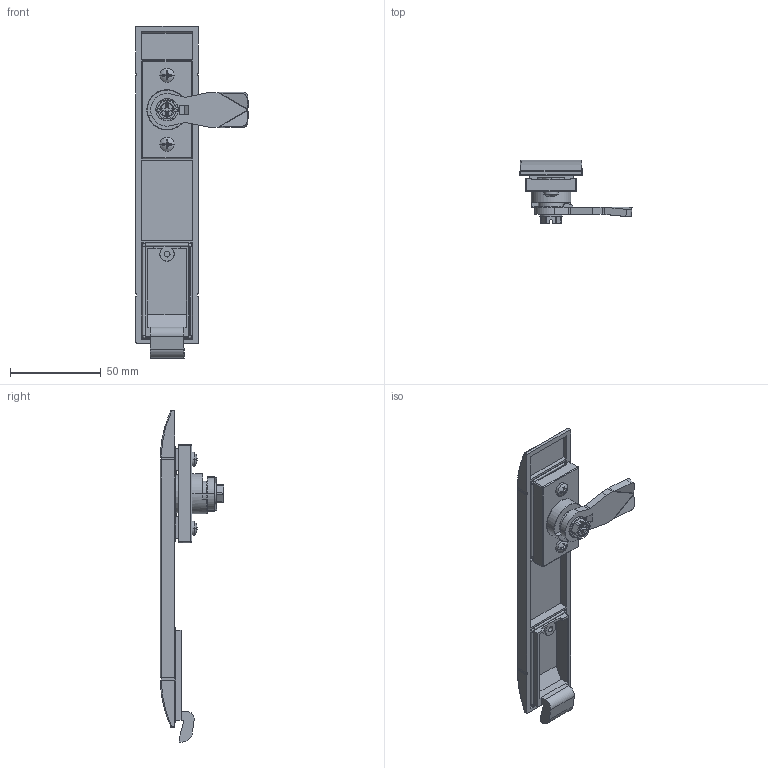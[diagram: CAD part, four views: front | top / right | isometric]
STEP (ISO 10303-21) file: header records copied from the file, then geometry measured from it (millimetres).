
FILE_DESCRIPTION (( 'STEP AP214' ), '1' );
FILE_NAME ('RW400-N.STEP', '2016-09-07T11:24:09', ( '' ), ( '' ), 'SwSTEP 2.0', 'SolidWorks 2015', '' );
FILE_SCHEMA (( 'AUTOMOTIVE_DESIGN' ));
Length unit declared in the file: millimetre
Products named in the file (11): RW400-N; 2.RW400.00.00.01_A; 2.RW400.00.00.02_D5; 1C.902.001_A; O-RING 42 x 1,5_42x1,5; Wkrêt 4,2 x 13_A; 1C.901.005_L.11; O-RING 12x2_A; 1C.J-175.18.45_#4; DIN 6921_M6x14; Podk³adka teflonowa_A
Assembly tree (12 placements, depth 2):
  RW400-N
    2.RW400.00.00.01_A
    2.RW400.00.00.02_D5
    1C.902.001_A
    O-RING 42 x 1,5_42x1,5  x2
    Wkrêt 4,2 x 13_A  x2
    1C.901.005_L.11
    O-RING 12x2_A
    1C.J-175.18.45_#4
    DIN 6921_M6x14
    Podk³adka teflonowa_A
Bounding box: 61.81 x 34.96 x 183 mm (x, y, z)
Volume: 46872.2 mm3; surface area: 35528.6 mm2
Topology: 13 solids, 13 shells, 660 faces, 1669 edges, 1048 vertices
Faces by surface type: plane 351, cylinder 202, bspline 37, torus 33, cone 29, sphere 8
Entity records: 20366 total; most frequent: CARTESIAN_POINT 6227, ORIENTED_EDGE 2974, DIRECTION 2654, EDGE_CURVE 1487, VERTEX_POINT 938, AXIS2_PLACEMENT_3D 922, VECTOR 810, LINE 810
